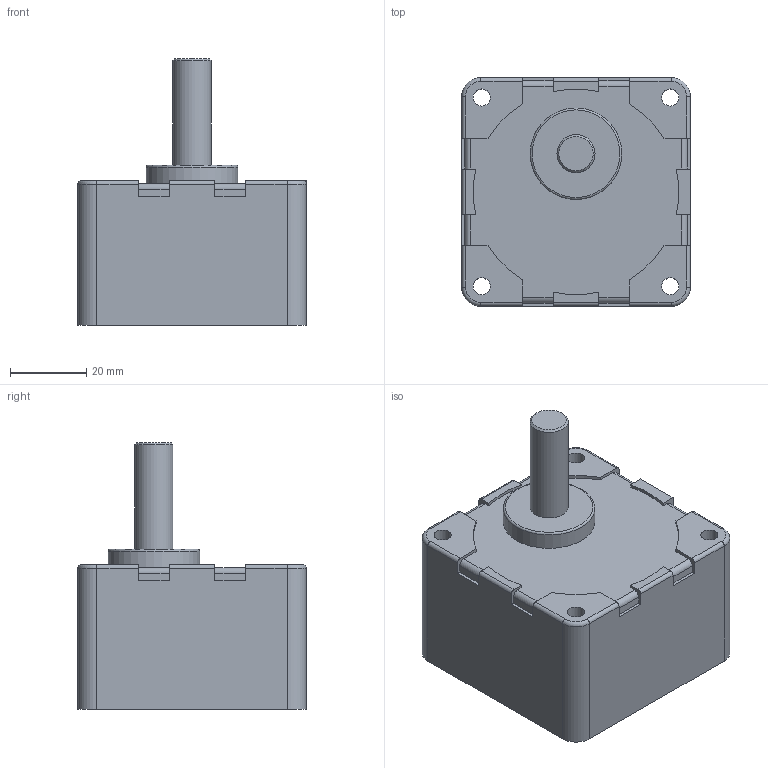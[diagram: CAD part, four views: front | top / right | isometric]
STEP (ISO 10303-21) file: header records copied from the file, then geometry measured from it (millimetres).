
FILE_DESCRIPTION(/* description */ (''),/* implementation_level */ '2;1');
FILE_NAME(/* name */ 'E:\도면작업\2016\0704) 미주향 SG 도면\3D GEAR HEAD\SG6SA30~120.stp',/* time_stamp */ '2016-07-22T14:01:29+09:00',/* author */ ('jy-jung'),/* organization */ (''),/* preprocessor_version */ 'ST-DEVELOPER v15.6',/* originating_system */ 'Autodesk Inventor 2015',/* authorisation */ '');
FILE_SCHEMA (('AUTOMOTIVE_DESIGN { 1 0 10303 214 3 1 1 }'));
Length unit declared in the file: millimetre
Products named in the file (1): SG6SA30~120
Bounding box: 60 x 60 x 70 mm (x, y, z)
Volume: 129880.4 mm3; surface area: 19819.9 mm2
Topology: 1 solids, 1 shells, 97 faces, 262 edges, 171 vertices
Faces by surface type: plane 50, cylinder 39, torus 5, cone 3
Full cylindrical faces by diameter (mm): 4.5 x4, 5.7 x1, 10 x1, 24 x1, 54 x1
Entity records: 3025 total; most frequent: DIRECTION 531, CARTESIAN_POINT 517, ORIENTED_EDGE 498, EDGE_CURVE 249, AXIS2_PLACEMENT_3D 184, VERTEX_POINT 170, LINE 163, VECTOR 163
